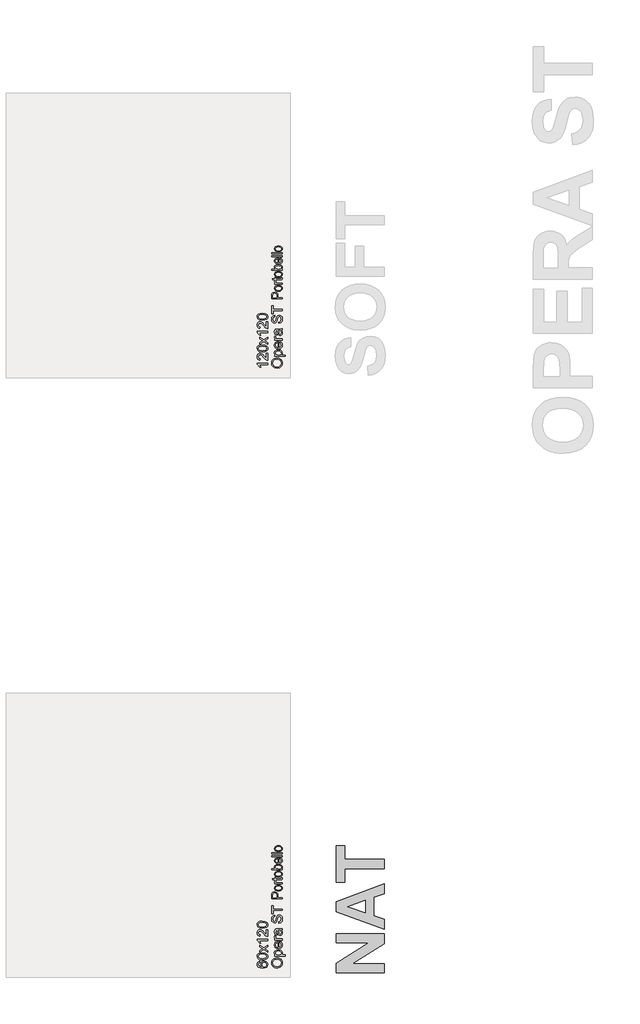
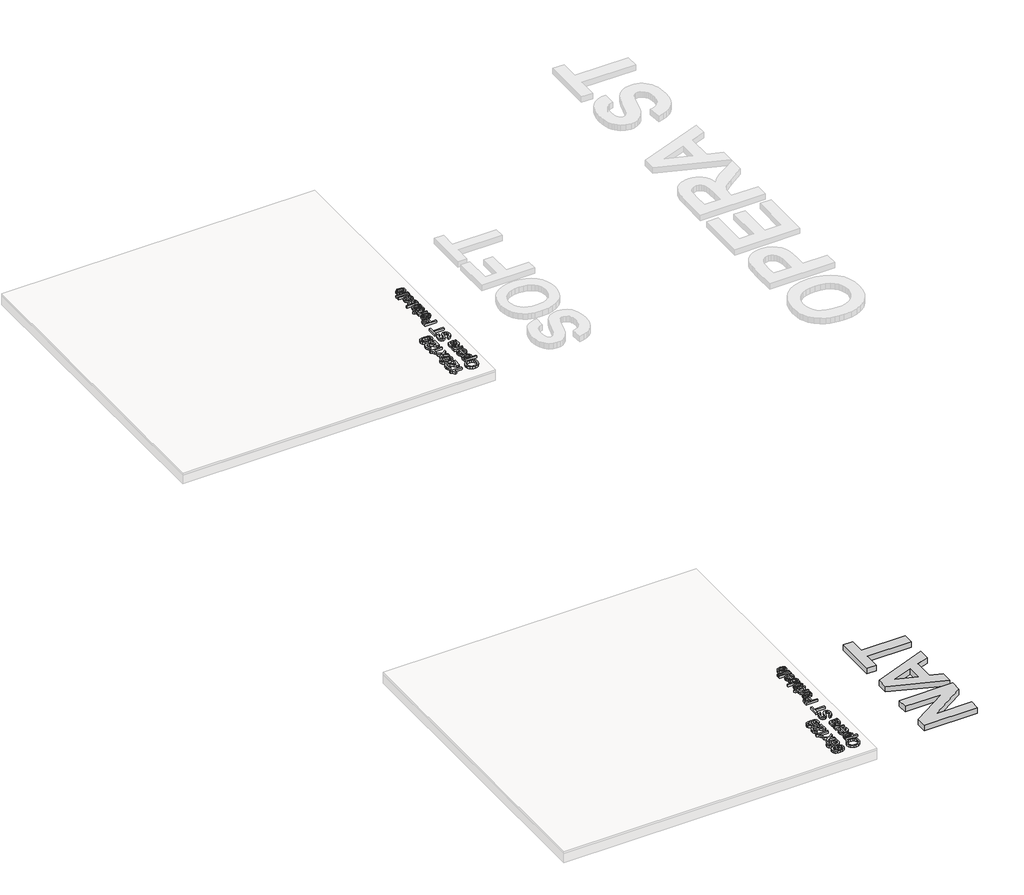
# One storey, part 3 of 6: 7 proxies.
"""IFC4 building model written with IfcOpenShell, lengths in millimetres."""

from ifc_helpers import new_model, si_unit, frame, origin, origin_with_axes, place, context, project, spatial, polyline, outline, extrude, element, save

model = new_model("IFC4")

# Units and contexts
model_context = context("Model", 3, world=origin())
ifc_project = project(units=[si_unit("LENGTHUNIT", "METRE", prefix="MILLI")], contexts=[model_context])

# Site, building, storey
site = spatial("IfcSite", under=ifc_project)
building = spatial("IfcBuilding", under=site)
storey = spatial("IfcBuildingStorey", under=building, Name="PORTOBELLO - SHOWROOM", Elevation=0.0)

# Proxies
placement = place(None, origin())
element("IfcBuildingElementProxy", 1, Name="10mm Arial", ObjectType="10mm Arial", at=placement, inside=storey, context=model_context, shape_type="SweptSolid", body=[
    extrude(outline(polyline([(-5289.4412704, -7634.8392093), (-5311.6552115, -7631.4914831), (-5328.4612873, -7621.4483047), (-5339.0378947, -7606.1137568), (-5342.5634305, -7586.8919226), (-5340.9079615, -7573.7156158), (-5335.9415545, -7561.9004724), (-5328.0136976, -7552.0902858), (-5317.4738784, -7544.9288497), (-5304.8310005, -7540.5510539), (-5290.5939673, -7539.0917887), (-5276.1668617, -7540.627696), (-5263.3461742, -7545.235418), (-5252.7879609, -7552.6605029), (-5245.1482781, -7562.6484991), (-5240.512965, -7574.362475), (-5238.9678606, -7586.965499), (-5240.6754462, -7600.3441409), (-5245.798203, -7612.2267293), (-5253.8732128, -7622.0123904), (-5264.4375574, -7629.1002502), (-5289.4412704, -7634.8392093)]), holes=[polyline([(-5289.318643, -7622.2821705), (-5273.6039505, -7619.7713759), (-5261.6293915, -7612.238992), (-5254.0510224, -7600.9174236), (-5251.5248994, -7587.0390754), (-5254.0755479, -7572.958392), (-5261.7274934, -7561.6184295), (-5274.0699343, -7554.141228), (-5290.6920691, -7551.6488274), (-5311.4160882, -7555.9162586), (-5325.1380866, -7568.3874582), (-5330.0063917, -7586.8183462), (-5327.661144, -7600.3257468), (-5320.6254008, -7611.8097964), (-5308.1082159, -7619.664077), (-5289.318643, -7622.2821705)])]), frame((0.0, 0.0, 19.0), z_axis=(0.0, 0.0, 1.0), x_axis=(1.0, 0.0, 0.0)), (0.0, 0.0, 1.0), 20.0),
    extrude(outline(polyline([(-5212.2841532, -7523.3954902), (-5314.3100932, -7523.3954902), (-5314.3100932, -7510.8384514), (-5301.9983091, -7510.8384514), (-5312.4093696, -7502.1564364), (-5315.8797231, -7490.4332634), (-5311.0236807, -7474.5162358), (-5297.3384705, -7464.1174381), (-5277.9878776, -7460.6102964), (-5257.6440032, -7464.5711592), (-5243.7871148, -7476.0736029), (-5238.9678606, -7491.9538424), (-5242.1929594, -7502.8799376), (-5250.347677, -7510.8384514), (-5212.2841532, -7510.8384514), (-5212.2841532, -7523.3954902)]), holes=[polyline([(-5276.8351807, -7510.8384514), (-5265.5779916, -7509.4803537), (-5257.7053169, -7505.4060606), (-5253.0700038, -7499.3942557), (-5251.5248994, -7492.2236225), (-5253.1251861, -7484.9364933), (-5257.9260461, -7478.7714042), (-5266.086895, -7474.5683524), (-5277.7671484, -7473.1673351), (-5288.9630238, -7474.5346299), (-5296.9460631, -7478.6365141), (-5301.728529, -7484.639122), (-5303.3226843, -7491.7085877), (-5301.6273614, -7498.8056445), (-5296.5413929, -7505.0381786), (-5288.2241941, -7509.3883832), (-5276.8351807, -7510.8384514)])]), frame((0.0, 0.0, 19.0), z_axis=(0.0, 0.0, 1.0), x_axis=(1.0, 0.0, 0.0)), (0.0, 0.0, 1.0), 20.0),
    extrude(outline(polyline([(-5262.5123083, -7394.8329956), (-5260.9426785, -7382.5212115), (-5251.6659208, -7386.9572552), (-5244.7313452, -7394.035918), (-5240.4087318, -7403.5977842), (-5238.9678606, -7415.4834383), (-5241.4541298, -7430.2171122), (-5248.9129372, -7441.554009), (-5260.859905, -7448.7828902), (-5276.8106552, -7451.1925173), (-5293.2978999, -7448.7583648), (-5305.6280781, -7441.4559071), (-5313.3168118, -7430.2722945), (-5315.8797231, -7416.1946768), (-5313.3229432, -7402.5554518), (-5305.6526036, -7391.6569477), (-5293.3469509, -7384.51084), (-5276.8842316, -7382.1288041), (-5273.4997172, -7382.2023805), (-5273.4997172, -7438.6354785), (-5264.1003323, -7436.4619091), (-5257.1902821, -7431.4127287), (-5252.9412451, -7424.1255995), (-5251.5248994, -7415.2381836), (-5254.1491243, -7402.9263995), (-5262.5123083, -7394.8329956)]), holes=[polyline([(-5286.056756, -7438.6354785), (-5286.056756, -7394.6858428), (-5297.4365724, -7399.7135634), (-5301.8511563, -7407.0344151), (-5303.3226843, -7416.2437277), (-5298.6260575, -7431.7070343), (-5293.1354187, -7436.5722737), (-5286.056756, -7438.6354785)])]), frame((0.0, 0.0, 19.0), z_axis=(0.0, 0.0, 1.0), x_axis=(1.0, 0.0, 0.0)), (0.0, 0.0, 1.0), 20.0),
    extrude(outline(polyline([(-5240.5374905, -7369.5717653), (-5314.3100932, -7369.5717653), (-5314.3100932, -7358.5843564), (-5303.3962607, -7358.5843564), (-5313.4517019, -7350.7852581), (-5315.8797231, -7342.9371088), (-5312.0046994, -7330.3310191), (-5300.7475103, -7334.5248739), (-5303.3226843, -7343.3540418), (-5300.8456122, -7350.4541643), (-5293.9784816, -7354.9791128), (-5279.3122528, -7357.0147265), (-5240.5374905, -7357.0147265), (-5240.5374905, -7369.5717653)])), frame((0.0, 0.0, 19.0), z_axis=(0.0, 0.0, 1.0), x_axis=(1.0, 0.0, 0.0)), (0.0, 0.0, 1.0), 20.0),
    extrude(outline(polyline([(-5249.9552695, -7275.3939745), (-5241.4449327, -7287.5708686), (-5238.9678606, -7301.0230869), (-5240.4577827, -7311.5169208), (-5244.9275489, -7319.2577711), (-5251.7149718, -7324.03104), (-5260.1578635, -7325.6221296), (-5270.0906774, -7323.2186339), (-5277.3011645, -7316.9033263), (-5281.4214429, -7308.1109466), (-5283.3099038, -7297.246165), (-5287.6263858, -7275.4675509), (-5290.422289, -7275.3939745), (-5299.6929153, -7278.8520653), (-5303.3226843, -7292.7334792), (-5300.9069259, -7305.4376708), (-5292.3352754, -7311.495461), (-5293.9049052, -7324.0524998), (-5306.1676384, -7318.620109), (-5313.3536, -7307.681751), (-5315.8797231, -7291.1147985), (-5313.6479056, -7275.8967466), (-5308.0438366, -7267.3005706), (-5299.521237, -7263.4500724), (-5288.5338281, -7262.8369358), (-5272.911106, -7262.8369358), (-5251.0957037, -7262.1992736), (-5240.5374905, -7259.6976761), (-5240.5374905, -7272.2547148), (-5249.9552695, -7275.3939745)]), holes=[polyline([(-5275.0693471, -7275.3939745), (-5271.2188489, -7295.6520097), (-5269.1832352, -7306.4554777), (-5265.8722972, -7311.3483082), (-5261.0407803, -7313.0650908), (-5254.2472262, -7309.3249572), (-5251.5248994, -7298.349811), (-5254.529269, -7285.6456195), (-5261.8010698, -7277.4541137), (-5271.5131545, -7275.4675509), (-5275.0693471, -7275.3939745)])]), frame((0.0, 0.0, 19.0), z_axis=(0.0, 0.0, 1.0), x_axis=(1.0, 0.0, 0.0)), (0.0, 0.0, 1.0), 20.0),
    extrude(outline(polyline([(-5275.0693471, -7209.469521), (-5275.0693471, -7196.9124822), (-5262.5000456, -7192.8657803), (-5254.5537945, -7182.9820173), (-5251.5248994, -7167.923381), (-5253.8180305, -7154.8022565), (-5260.1210753, -7146.3287079), (-5268.545573, -7143.5450675), (-5276.3814595, -7145.6297321), (-5282.0836305, -7154.1645944), (-5286.8783591, -7172.4483295), (-5293.0710394, -7192.1300163), (-5302.4152421, -7202.8108569), (-5314.8987044, -7206.3302613), (-5329.1112122, -7201.976991), (-5339.1421279, -7189.2605367), (-5342.5634305, -7170.6457078), (-5338.9827124, -7150.78008), (-5328.4612873, -7137.5363282), (-5312.7404634, -7132.5576585), (-5312.7404634, -7145.1146973), (-5320.2329934, -7147.4200911), (-5325.6408587, -7152.2270825), (-5330.0063917, -7170.1551984), (-5325.6899096, -7188.1323653), (-5315.2665864, -7193.7732225), (-5306.5600459, -7189.7755715), (-5299.5457625, -7169.2722817), (-5293.2427176, -7147.0522091), (-5283.0646491, -7134.8998406), (-5268.8644041, -7130.9880287), (-5253.842556, -7135.4884518), (-5242.8796725, -7148.437898), (-5238.9678606, -7167.4328717), (-5243.1862408, -7189.8614106), (-5255.8904324, -7204.0493929), (-5275.0693471, -7209.469521)])), frame((0.0, 0.0, 19.0), z_axis=(0.0, 0.0, 1.0), x_axis=(1.0, 0.0, 0.0)), (0.0, 0.0, 1.0), 20.0),
    extrude(outline(polyline([(-5240.5374905, -7087.038393), (-5328.4367618, -7087.038393), (-5328.4367618, -7120.0006198), (-5340.9938006, -7120.0006198), (-5340.9938006, -7041.5191275), (-5328.4367618, -7041.5191275), (-5328.4367618, -7074.4813542), (-5240.5374905, -7074.4813542), (-5240.5374905, -7087.038393)])), frame((0.0, 0.0, 19.0), z_axis=(0.0, 0.0, 1.0), x_axis=(1.0, 0.0, 0.0)), (0.0, 0.0, 1.0), 20.0),
])
element("IfcBuildingElementProxy", 2, Name="10mm Arial", ObjectType="10mm Arial", at=placement, inside=storey, context=model_context, shape_type="SweptSolid", body=[
    extrude(outline(polyline([(-5289.4412704, -1934.8392093), (-5311.6552115, -1931.4914831), (-5328.4612873, -1921.4483047), (-5339.0378947, -1906.1137568), (-5342.5634305, -1886.8919226), (-5340.9079615, -1873.7156158), (-5335.9415545, -1861.9004724), (-5328.0136976, -1852.0902858), (-5317.4738784, -1844.9288497), (-5304.8310005, -1840.5510539), (-5290.5939673, -1839.0917887), (-5276.1668617, -1840.627696), (-5263.3461742, -1845.235418), (-5252.7879609, -1852.6605029), (-5245.1482781, -1862.6484991), (-5240.512965, -1874.362475), (-5238.9678606, -1886.965499), (-5240.6754462, -1900.3441409), (-5245.798203, -1912.2267293), (-5253.8732128, -1922.0123904), (-5264.4375574, -1929.1002502), (-5289.4412704, -1934.8392093)]), holes=[polyline([(-5289.318643, -1922.2821705), (-5273.6039505, -1919.7713759), (-5261.6293915, -1912.238992), (-5254.0510224, -1900.9174236), (-5251.5248994, -1887.0390754), (-5254.0755479, -1872.958392), (-5261.7274934, -1861.6184295), (-5274.0699343, -1854.141228), (-5290.6920691, -1851.6488274), (-5311.4160882, -1855.9162586), (-5325.1380866, -1868.3874582), (-5330.0063917, -1886.8183462), (-5327.661144, -1900.3257468), (-5320.6254008, -1911.8097964), (-5308.1082159, -1919.664077), (-5289.318643, -1922.2821705)])]), frame((0.0, 0.0, 17.0), z_axis=(0.0, 0.0, 1.0), x_axis=(1.0, 0.0, 0.0)), (0.0, 0.0, 1.0), 20.0),
    extrude(outline(polyline([(-5212.2841532, -1823.3954902), (-5314.3100932, -1823.3954902), (-5314.3100932, -1810.8384514), (-5301.9983091, -1810.8384514), (-5312.4093696, -1802.1564364), (-5315.8797231, -1790.4332634), (-5311.0236807, -1774.5162358), (-5297.3384705, -1764.1174381), (-5277.9878776, -1760.6102964), (-5257.6440032, -1764.5711592), (-5243.7871148, -1776.0736029), (-5238.9678606, -1791.9538424), (-5242.1929594, -1802.8799376), (-5250.347677, -1810.8384514), (-5212.2841532, -1810.8384514), (-5212.2841532, -1823.3954902)]), holes=[polyline([(-5276.8351807, -1810.8384514), (-5265.5779916, -1809.4803537), (-5257.7053169, -1805.4060606), (-5253.0700038, -1799.3942557), (-5251.5248994, -1792.2236225), (-5253.1251861, -1784.9364933), (-5257.9260461, -1778.7714042), (-5266.086895, -1774.5683524), (-5277.7671484, -1773.1673351), (-5288.9630238, -1774.5346299), (-5296.9460631, -1778.6365141), (-5301.728529, -1784.639122), (-5303.3226843, -1791.7085877), (-5301.6273614, -1798.8056445), (-5296.5413929, -1805.0381786), (-5288.2241941, -1809.3883832), (-5276.8351807, -1810.8384514)])]), frame((0.0, 0.0, 17.0), z_axis=(0.0, 0.0, 1.0), x_axis=(1.0, 0.0, 0.0)), (0.0, 0.0, 1.0), 20.0),
    extrude(outline(polyline([(-5262.5123083, -1694.8329956), (-5260.9426785, -1682.5212115), (-5251.6659208, -1686.9572552), (-5244.7313452, -1694.035918), (-5240.4087318, -1703.5977842), (-5238.9678606, -1715.4834383), (-5241.4541298, -1730.2171122), (-5248.9129372, -1741.554009), (-5260.859905, -1748.7828902), (-5276.8106552, -1751.1925173), (-5293.2978999, -1748.7583648), (-5305.6280781, -1741.4559071), (-5313.3168118, -1730.2722945), (-5315.8797231, -1716.1946768), (-5313.3229432, -1702.5554518), (-5305.6526036, -1691.6569477), (-5293.3469509, -1684.51084), (-5276.8842316, -1682.1288041), (-5273.4997172, -1682.2023805), (-5273.4997172, -1738.6354785), (-5264.1003323, -1736.4619091), (-5257.1902821, -1731.4127287), (-5252.9412451, -1724.1255995), (-5251.5248994, -1715.2381836), (-5254.1491243, -1702.9263995), (-5262.5123083, -1694.8329956)]), holes=[polyline([(-5286.056756, -1738.6354785), (-5286.056756, -1694.6858428), (-5297.4365724, -1699.7135634), (-5301.8511563, -1707.0344151), (-5303.3226843, -1716.2437277), (-5298.6260575, -1731.7070343), (-5293.1354187, -1736.5722737), (-5286.056756, -1738.6354785)])]), frame((0.0, 0.0, 17.0), z_axis=(0.0, 0.0, 1.0), x_axis=(1.0, 0.0, 0.0)), (0.0, 0.0, 1.0), 20.0),
    extrude(outline(polyline([(-5240.5374905, -1669.5717653), (-5314.3100932, -1669.5717653), (-5314.3100932, -1658.5843564), (-5303.3962607, -1658.5843564), (-5313.4517019, -1650.7852581), (-5315.8797231, -1642.9371088), (-5312.0046994, -1630.3310191), (-5300.7475103, -1634.5248739), (-5303.3226843, -1643.3540418), (-5300.8456122, -1650.4541643), (-5293.9784816, -1654.9791128), (-5279.3122528, -1657.0147265), (-5240.5374905, -1657.0147265), (-5240.5374905, -1669.5717653)])), frame((0.0, 0.0, 17.0), z_axis=(0.0, 0.0, 1.0), x_axis=(1.0, 0.0, 0.0)), (0.0, 0.0, 1.0), 20.0),
    extrude(outline(polyline([(-5249.9552695, -1575.3939745), (-5241.4449327, -1587.5708686), (-5238.9678606, -1601.0230869), (-5240.4577827, -1611.5169208), (-5244.9275489, -1619.2577711), (-5251.7149718, -1624.03104), (-5260.1578635, -1625.6221296), (-5270.0906774, -1623.2186339), (-5277.3011645, -1616.9033263), (-5281.4214429, -1608.1109466), (-5283.3099038, -1597.246165), (-5287.6263858, -1575.4675509), (-5290.422289, -1575.3939745), (-5299.6929153, -1578.8520653), (-5303.3226843, -1592.7334792), (-5300.9069259, -1605.4376708), (-5292.3352754, -1611.495461), (-5293.9049052, -1624.0524998), (-5306.1676384, -1618.620109), (-5313.3536, -1607.681751), (-5315.8797231, -1591.1147985), (-5313.6479056, -1575.8967466), (-5308.0438366, -1567.3005706), (-5299.521237, -1563.4500724), (-5288.5338281, -1562.8369358), (-5272.911106, -1562.8369358), (-5251.0957037, -1562.1992736), (-5240.5374905, -1559.6976761), (-5240.5374905, -1572.2547148), (-5249.9552695, -1575.3939745)]), holes=[polyline([(-5275.0693471, -1575.3939745), (-5271.2188489, -1595.6520097), (-5269.1832352, -1606.4554777), (-5265.8722972, -1611.3483082), (-5261.0407803, -1613.0650908), (-5254.2472262, -1609.3249572), (-5251.5248994, -1598.349811), (-5254.529269, -1585.6456195), (-5261.8010698, -1577.4541137), (-5271.5131545, -1575.4675509), (-5275.0693471, -1575.3939745)])]), frame((0.0, 0.0, 17.0), z_axis=(0.0, 0.0, 1.0), x_axis=(1.0, 0.0, 0.0)), (0.0, 0.0, 1.0), 20.0),
    extrude(outline(polyline([(-5275.0693471, -1509.469521), (-5275.0693471, -1496.9124822), (-5262.5000456, -1492.8657803), (-5254.5537945, -1482.9820173), (-5251.5248994, -1467.923381), (-5253.8180305, -1454.8022565), (-5260.1210753, -1446.3287079), (-5268.545573, -1443.5450675), (-5276.3814595, -1445.6297321), (-5282.0836305, -1454.1645944), (-5286.8783591, -1472.4483295), (-5293.0710394, -1492.1300163), (-5302.4152421, -1502.8108569), (-5314.8987044, -1506.3302613), (-5329.1112122, -1501.976991), (-5339.1421279, -1489.2605367), (-5342.5634305, -1470.6457078), (-5338.9827124, -1450.78008), (-5328.4612873, -1437.5363282), (-5312.7404634, -1432.5576585), (-5312.7404634, -1445.1146973), (-5320.2329934, -1447.4200911), (-5325.6408587, -1452.2270825), (-5330.0063917, -1470.1551984), (-5325.6899096, -1488.1323653), (-5315.2665864, -1493.7732225), (-5306.5600459, -1489.7755715), (-5299.5457625, -1469.2722817), (-5293.2427176, -1447.0522091), (-5283.0646491, -1434.8998406), (-5268.8644041, -1430.9880287), (-5253.842556, -1435.4884518), (-5242.8796725, -1448.437898), (-5238.9678606, -1467.4328717), (-5243.1862408, -1489.8614106), (-5255.8904324, -1504.0493929), (-5275.0693471, -1509.469521)])), frame((0.0, 0.0, 17.0), z_axis=(0.0, 0.0, 1.0), x_axis=(1.0, 0.0, 0.0)), (0.0, 0.0, 1.0), 20.0),
    extrude(outline(polyline([(-5240.5374905, -1387.038393), (-5328.4367618, -1387.038393), (-5328.4367618, -1420.0006198), (-5340.9938006, -1420.0006198), (-5340.9938006, -1341.5191275), (-5328.4367618, -1341.5191275), (-5328.4367618, -1374.4813542), (-5240.5374905, -1374.4813542), (-5240.5374905, -1387.038393)])), frame((0.0, 0.0, 17.0), z_axis=(0.0, 0.0, 1.0), x_axis=(1.0, 0.0, 0.0)), (0.0, 0.0, 1.0), 20.0),
])
element("IfcBuildingElementProxy", 3, Name="10mm Arial", ObjectType="10mm Arial", at=placement, inside=storey, context=model_context, shape_type="SweptSolid", body=[
    extrude(outline(polyline([(-5454.3100932, -7570.4843856), (-5452.7404634, -7583.0414244), (-5463.2128375, -7587.7993648), (-5468.4367618, -7600.3809291), (-5465.395604, -7611.7116945), (-5453.9789994, -7620.283345), (-5431.5995114, -7623.8518004), (-5441.6181644, -7612.7785523), (-5444.8923142, -7599.0565539), (-5442.6543654, -7587.4560083), (-5435.9405189, -7577.7193982), (-5425.6827426, -7571.1159163), (-5412.8130042, -7568.9147557), (-5395.4857622, -7573.0595596), (-5383.223029, -7584.4639014), (-5378.9678606, -7600.9204893), (-5381.7882893, -7615.1667196), (-5390.2495751, -7626.5128135), (-5405.1855841, -7633.9348327), (-5427.4301821, -7636.4088391), (-5452.4400264, -7633.6619869), (-5469.5404078, -7625.4214302), (-5478.1304524, -7614.1703725), (-5480.9938006, -7599.5961141), (-5479.2218357, -7588.5780484), (-5473.9059408, -7579.7550119), (-5465.4630491, -7573.5745943), (-5454.3100932, -7570.4843856)]), holes=[polyline([(-5413.0092079, -7623.8518004), (-5402.1321636, -7620.9455326), (-5394.2349634, -7613.2200107), (-5391.5248994, -7601.901508), (-5392.9289823, -7593.614966), (-5397.1412312, -7587.100389), (-5403.7631071, -7582.8789431), (-5412.3960712, -7581.4717945), (-5420.6826132, -7582.860549), (-5427.0009865, -7587.0268126), (-5431.0017032, -7593.6517542), (-5432.3352754, -7602.4165428), (-5427.0009865, -7617.6100692), (-5420.8358974, -7622.2913676), (-5413.0092079, -7623.8518004)])]), frame((0.0, 0.0, 19.0), z_axis=(0.0, 0.0, 1.0), x_axis=(1.0, 0.0, 0.0)), (0.0, 0.0, 1.0), 20.0),
    extrude(outline(polyline([(-5429.9563052, -7557.9273468), (-5458.8595672, -7554.2362641), (-5475.5246216, -7543.2733807), (-5480.9938006, -7524.9651201), (-5477.7564391, -7510.2988912), (-5468.4244991, -7500.1698736), (-5453.5620665, -7494.2837617), (-5429.9563052, -7492.0028933), (-5401.1756704, -7495.6571878), (-5384.4738278, -7506.583283), (-5380.3443524, -7514.8146427), (-5378.9678606, -7524.9651201), (-5381.3590936, -7538.0126681), (-5388.5327925, -7547.9209566), (-5405.5228093, -7555.4257493), (-5429.9563052, -7557.9273468)]), holes=[polyline([(-5429.9808306, -7545.3703081), (-5410.2286332, -7543.8987801), (-5398.7967002, -7539.4841961), (-5393.3428496, -7532.9113711), (-5391.5248994, -7524.9651201), (-5393.3489809, -7517.018869), (-5398.8212256, -7510.446044), (-5410.25929, -7506.03146), (-5429.9808306, -7504.5599321), (-5449.288504, -7505.9824091), (-5460.8093418, -7510.2498402), (-5466.5299068, -7516.8104025), (-5468.4367618, -7525.1122729), (-5466.7567674, -7532.9726848), (-5461.7167841, -7539.2879924), (-5449.4785764, -7543.8497291), (-5429.9808306, -7545.3703081)])]), frame((0.0, 0.0, 19.0), z_axis=(0.0, 0.0, 1.0), x_axis=(1.0, 0.0, 0.0)), (0.0, 0.0, 1.0), 20.0),
    extrude(outline(polyline([(-5380.5374905, -7485.7243739), (-5417.644521, -7458.8935137), (-5454.3100932, -7484.1547441), (-5454.3100932, -7469.0961077), (-5436.627232, -7456.9069509), (-5428.3130989, -7451.1925173), (-5435.1311786, -7446.2383731), (-5454.3100932, -7432.3569591), (-5454.3100932, -7417.2492719), (-5417.6199956, -7443.7858265), (-5380.5374905, -7418.2302905), (-5380.5374905, -7433.3134523), (-5402.8556648, -7448.7154452), (-5406.9514177, -7451.5113484), (-5380.5374905, -7470.6166866), (-5380.5374905, -7485.7243739)])), frame((0.0, 0.0, 19.0), z_axis=(0.0, 0.0, 1.0), x_axis=(1.0, 0.0, 0.0)), (0.0, 0.0, 1.0), 20.0),
    extrude(outline(polyline([(-5380.5374905, -7363.2932459), (-5380.5374905, -7375.8502847), (-5458.822779, -7375.8502847), (-5450.3492304, -7387.7451359), (-5444.0093974, -7400.9643622), (-5455.8797231, -7400.9643622), (-5467.6274215, -7382.5579997), (-5480.9938006, -7371.3866498), (-5480.9938006, -7363.2932459), (-5380.5374905, -7363.2932459)])), frame((0.0, 0.0, 19.0), z_axis=(0.0, 0.0, 1.0), x_axis=(1.0, 0.0, 0.0)), (0.0, 0.0, 1.0), 20.0),
    extrude(outline(polyline([(-5393.0945292, -7269.1154551), (-5380.5374905, -7269.1154551), (-5380.5374905, -7335.0399087), (-5389.1949801, -7333.691008), (-5402.524571, -7326.0513253), (-5417.0804353, -7310.3182386), (-5438.0006581, -7288.6499891), (-5452.2254286, -7283.2421238), (-5463.740135, -7288.3556835), (-5468.4367618, -7301.7097999), (-5463.8504996, -7315.6280021), (-5451.1708335, -7320.9132401), (-5452.7404634, -7333.4702788), (-5464.8867006, -7330.4260553), (-5473.758788, -7323.8440333), (-5479.1850475, -7314.0675693), (-5480.9938006, -7301.4400198), (-5478.9827124, -7288.7204998), (-5472.9494477, -7278.9624299), (-5463.9363388, -7272.7544212), (-5452.9857181, -7270.685085), (-5441.0786041, -7272.9169024), (-5428.76682, -7280.335856), (-5411.5622054, -7298.3252856), (-5399.4834132, -7312.7707852), (-5393.0945292, -7318.436168), (-5393.0945292, -7269.1154551)])), frame((0.0, 0.0, 19.0), z_axis=(0.0, 0.0, 1.0), x_axis=(1.0, 0.0, 0.0)), (0.0, 0.0, 1.0), 20.0),
    extrude(outline(polyline([(-5429.9563052, -7256.5584164), (-5458.8595672, -7252.8673337), (-5475.5246216, -7241.9044502), (-5480.9938006, -7223.5961896), (-5477.7564391, -7208.9299607), (-5468.4244991, -7198.8009431), (-5453.5620665, -7192.9148312), (-5429.9563052, -7190.6339628), (-5401.1756704, -7194.2882573), (-5384.4738278, -7205.2143526), (-5380.3443524, -7213.4457122), (-5378.9678606, -7223.5961896), (-5381.3590936, -7236.6437377), (-5388.5327925, -7246.5520261), (-5405.5228093, -7254.0568188), (-5429.9563052, -7256.5584164)]), holes=[polyline([(-5429.9808306, -7244.0013776), (-5410.2286332, -7242.5298496), (-5398.7967002, -7238.1152657), (-5393.3428496, -7231.5424407), (-5391.5248994, -7223.5961896), (-5393.3489809, -7215.6499385), (-5398.8212256, -7209.0771135), (-5410.25929, -7204.6625296), (-5429.9808306, -7203.1910016), (-5449.288504, -7204.6134787), (-5460.8093418, -7208.8809098), (-5466.5299068, -7215.441472), (-5468.4367618, -7223.7433424), (-5466.7567674, -7231.6037544), (-5461.7167841, -7237.919062), (-5449.4785764, -7242.4807987), (-5429.9808306, -7244.0013776)])]), frame((0.0, 0.0, 19.0), z_axis=(0.0, 0.0, 1.0), x_axis=(1.0, 0.0, 0.0)), (0.0, 0.0, 1.0), 20.0),
])
element("IfcBuildingElementProxy", 4, Name="10mm Arial", ObjectType="10mm Arial", at=placement, inside=storey, context=model_context, shape_type="SweptSolid", body=[
    extrude(outline(polyline([(-5380.5374905, -1887.7503139), (-5380.5374905, -1900.3073527), (-5458.822779, -1900.3073527), (-5450.3492304, -1912.2022038), (-5444.0093974, -1925.4214302), (-5455.8797231, -1925.4214302), (-5467.6274215, -1907.0150677), (-5480.9938006, -1895.8437178), (-5480.9938006, -1887.7503139), (-5380.5374905, -1887.7503139)])), frame((0.0, 0.0, 17.0), z_axis=(0.0, 0.0, 1.0), x_axis=(1.0, 0.0, 0.0)), (0.0, 0.0, 1.0), 20.0),
    extrude(outline(polyline([(-5393.0945292, -1793.5725231), (-5380.5374905, -1793.5725231), (-5380.5374905, -1859.4969767), (-5389.1949801, -1858.148076), (-5402.524571, -1850.5083933), (-5417.0804353, -1834.7753066), (-5438.0006581, -1813.1070571), (-5452.2254286, -1807.6991917), (-5463.740135, -1812.8127515), (-5468.4367618, -1826.1668679), (-5463.8504996, -1840.0850701), (-5451.1708335, -1845.3703081), (-5452.7404634, -1857.9273468), (-5464.8867006, -1854.8831233), (-5473.758788, -1848.3011013), (-5479.1850475, -1838.5246373), (-5480.9938006, -1825.8970878), (-5478.9827124, -1813.1775678), (-5472.9494477, -1803.4194979), (-5463.9363388, -1797.2114892), (-5452.9857181, -1795.142153), (-5441.0786041, -1797.3739704), (-5428.76682, -1804.792924), (-5411.5622054, -1822.7823535), (-5399.4834132, -1837.2278532), (-5393.0945292, -1842.893236), (-5393.0945292, -1793.5725231)])), frame((0.0, 0.0, 17.0), z_axis=(0.0, 0.0, 1.0), x_axis=(1.0, 0.0, 0.0)), (0.0, 0.0, 1.0), 20.0),
    extrude(outline(polyline([(-5429.9563052, -1781.0154844), (-5458.8595672, -1777.3244017), (-5475.5246216, -1766.3615182), (-5480.9938006, -1748.0532576), (-5477.7564391, -1733.3870287), (-5468.4244991, -1723.2580111), (-5453.5620665, -1717.3718992), (-5429.9563052, -1715.0910308), (-5401.1756704, -1718.7453253), (-5384.4738278, -1729.6714206), (-5380.3443524, -1737.9027802), (-5378.9678606, -1748.0532576), (-5381.3590936, -1761.1008057), (-5388.5327925, -1771.0090941), (-5405.5228093, -1778.5138868), (-5429.9563052, -1781.0154844)]), holes=[polyline([(-5429.9808306, -1768.4584456), (-5410.2286332, -1766.9869176), (-5398.7967002, -1762.5723337), (-5393.3428496, -1755.9995087), (-5391.5248994, -1748.0532576), (-5393.3489809, -1740.1070065), (-5398.8212256, -1733.5341815), (-5410.25929, -1729.1195976), (-5429.9808306, -1727.6480696), (-5449.288504, -1729.0705466), (-5460.8093418, -1733.3379778), (-5466.5299068, -1739.89854), (-5468.4367618, -1748.2004104), (-5466.7567674, -1756.0608224), (-5461.7167841, -1762.3761299), (-5449.4785764, -1766.9378667), (-5429.9808306, -1768.4584456)])]), frame((0.0, 0.0, 17.0), z_axis=(0.0, 0.0, 1.0), x_axis=(1.0, 0.0, 0.0)), (0.0, 0.0, 1.0), 20.0),
    extrude(outline(polyline([(-5380.5374905, -1708.8125114), (-5417.644521, -1681.9816513), (-5454.3100932, -1707.2428816), (-5454.3100932, -1692.1842453), (-5436.627232, -1679.9950885), (-5428.3130989, -1674.2806548), (-5435.1311786, -1669.3265106), (-5454.3100932, -1655.4450967), (-5454.3100932, -1640.3374094), (-5417.6199956, -1666.873964), (-5380.5374905, -1641.3184281), (-5380.5374905, -1656.4015899), (-5402.8556648, -1671.8035827), (-5406.9514177, -1674.5994859), (-5380.5374905, -1693.7048242), (-5380.5374905, -1708.8125114)])), frame((0.0, 0.0, 17.0), z_axis=(0.0, 0.0, 1.0), x_axis=(1.0, 0.0, 0.0)), (0.0, 0.0, 1.0), 20.0),
    extrude(outline(polyline([(-5380.5374905, -1586.3813834), (-5380.5374905, -1598.9384222), (-5458.822779, -1598.9384222), (-5450.3492304, -1610.8332734), (-5444.0093974, -1624.0524998), (-5455.8797231, -1624.0524998), (-5467.6274215, -1605.6461373), (-5480.9938006, -1594.4747873), (-5480.9938006, -1586.3813834), (-5380.5374905, -1586.3813834)])), frame((0.0, 0.0, 17.0), z_axis=(0.0, 0.0, 1.0), x_axis=(1.0, 0.0, 0.0)), (0.0, 0.0, 1.0), 20.0),
    extrude(outline(polyline([(-5393.0945292, -1492.2035927), (-5380.5374905, -1492.2035927), (-5380.5374905, -1558.1280462), (-5389.1949801, -1556.7791456), (-5402.524571, -1549.1394628), (-5417.0804353, -1533.4063761), (-5438.0006581, -1511.7381266), (-5452.2254286, -1506.3302613), (-5463.740135, -1511.443821), (-5468.4367618, -1524.7979375), (-5463.8504996, -1538.7161396), (-5451.1708335, -1544.0013776), (-5452.7404634, -1556.5584164), (-5464.8867006, -1553.5141929), (-5473.758788, -1546.9321708), (-5479.1850475, -1537.1557068), (-5480.9938006, -1524.5281573), (-5478.9827124, -1511.8086373), (-5472.9494477, -1502.0505674), (-5463.9363388, -1495.8425588), (-5452.9857181, -1493.7732225), (-5441.0786041, -1496.00504), (-5428.76682, -1503.4239935), (-5411.5622054, -1521.4134231), (-5399.4834132, -1535.8589228), (-5393.0945292, -1541.5243055), (-5393.0945292, -1492.2035927)])), frame((0.0, 0.0, 17.0), z_axis=(0.0, 0.0, 1.0), x_axis=(1.0, 0.0, 0.0)), (0.0, 0.0, 1.0), 20.0),
    extrude(outline(polyline([(-5429.9563052, -1479.6465539), (-5458.8595672, -1475.9554712), (-5475.5246216, -1464.9925878), (-5480.9938006, -1446.6843271), (-5477.7564391, -1432.0180983), (-5468.4244991, -1421.8890807), (-5453.5620665, -1416.0029687), (-5429.9563052, -1413.7221004), (-5401.1756704, -1417.3763949), (-5384.4738278, -1428.3024901), (-5380.3443524, -1436.5338498), (-5378.9678606, -1446.6843271), (-5381.3590936, -1459.7318752), (-5388.5327925, -1469.6401636), (-5405.5228093, -1477.1449563), (-5429.9563052, -1479.6465539)]), holes=[polyline([(-5429.9808306, -1467.0895151), (-5410.2286332, -1465.6179872), (-5398.7967002, -1461.2034032), (-5393.3428496, -1454.6305782), (-5391.5248994, -1446.6843271), (-5393.3489809, -1438.7380761), (-5398.8212256, -1432.1652511), (-5410.25929, -1427.7506671), (-5429.9808306, -1426.2791391), (-5449.288504, -1427.7016162), (-5460.8093418, -1431.9690473), (-5466.5299068, -1438.5296096), (-5468.4367618, -1446.8314799), (-5466.7567674, -1454.6918919), (-5461.7167841, -1461.0071995), (-5449.4785764, -1465.5689362), (-5429.9808306, -1467.0895151)])]), frame((0.0, 0.0, 17.0), z_axis=(0.0, 0.0, 1.0), x_axis=(1.0, 0.0, 0.0)), (0.0, 0.0, 1.0), 20.0),
])
element("IfcBuildingElementProxy", 5, Name="10mm Arial Narrow", ObjectType="10mm Arial Narrow", at=placement, inside=storey, context=model_context, shape_type="SweptSolid", body=[
    extrude(outline(polyline([(-5240.5374905, -6975.411524), (-5341.2560942, -6975.411524), (-5341.2560942, -6944.1146393), (-5339.3777735, -6927.8189378), (-5329.8973303, -6916.3459517), (-5312.8782215, -6912.0562733), (-5300.802396, -6913.8425817), (-5291.1760022, -6919.2015069), (-5284.8747438, -6928.9452957), (-5282.7743243, -6943.8861949), (-5282.7743243, -6965.6645624), (-5240.5374905, -6965.6645624), (-5240.5374905, -6975.411524)]), holes=[polyline([(-5294.1457796, -6965.6645624), (-5294.1457796, -6942.6932074), (-5298.6765938, -6926.829012), (-5312.3451845, -6921.8032349), (-5322.5109609, -6924.2780494), (-5328.3109108, -6930.2556782), (-5329.884639, -6942.9216518), (-5329.884639, -6965.6645624), (-5294.1457796, -6965.6645624)])]), frame((0.0, 0.0, 19.0), z_axis=(0.0, 0.0, 1.0), x_axis=(1.0, 0.0, 0.0)), (0.0, 0.0, 1.0), 20.0),
    extrude(outline(polyline([(-5277.0885967, -6903.9338052), (-5293.6793722, -6901.9793363), (-5305.631457, -6896.1159297), (-5312.8560116, -6887.257363), (-5315.2641965, -6876.3174139), (-5312.8560116, -6865.5043783), (-5305.631457, -6856.6204289), (-5293.8697426, -6850.6808741), (-5277.850078, -6848.7010225), (-5260.6881915, -6850.6459729), (-5248.5457363, -6856.4808239), (-5241.3211817, -6865.3298721), (-5238.9129969, -6876.3174139), (-5241.3275274, -6887.178042), (-5248.571119, -6896.0524729), (-5260.5295495, -6901.9634722), (-5277.0885967, -6903.9338052)]), holes=[polyline([(-5277.1139794, -6894.1868436), (-5264.562228, -6892.8828067), (-5255.6909699, -6888.9706961), (-5250.4177114, -6883.1294994), (-5248.6599585, -6876.038204), (-5250.4335756, -6869.3181309), (-5255.7544267, -6863.6260576), (-5264.641549, -6859.7425025), (-5277.1139794, -6858.4479842), (-5289.6276567, -6859.752021), (-5298.4862234, -6863.6641316), (-5303.759482, -6869.5053284), (-5305.5172348, -6876.5966237), (-5303.7499635, -6883.3642895), (-5298.4481494, -6889.0468443), (-5289.5800641, -6892.9018437), (-5277.1139794, -6894.1868436)])]), frame((0.0, 0.0, 19.0), z_axis=(0.0, 0.0, 1.0), x_axis=(1.0, 0.0, 0.0)), (0.0, 0.0, 1.0), 20.0),
    extrude(outline(polyline([(-5248.6599585, -6777.2233037), (-5238.9129969, -6775.5988101), (-5238.9129969, -6782.9597968), (-5241.0324534, -6791.2345611), (-5246.8324032, -6795.5496223), (-5261.4782284, -6796.717227), (-5303.8927412, -6796.717227), (-5303.8927412, -6804.8396951), (-5307.1417284, -6804.8396951), (-5302.2682476, -6806.4641887), (-5303.8927412, -6814.0282371), (-5301.570223, -6820.1073967), (-5295.0849399, -6823.9782604), (-5279.6776334, -6825.958112), (-5240.5374905, -6825.958112), (-5240.5374905, -6835.7050736), (-5313.6397029, -6835.7050736), (-5313.6397029, -6825.958112), (-5303.9435066, -6825.958112), (-5313.0305178, -6819.7139647), (-5315.2641965, -6813.3175211), (-5313.6397029, -6804.8396951), (-5313.6397029, -6796.717227), (-5329.884639, -6796.717227), (-5338.007107, -6786.9702654), (-5313.6397029, -6786.9702654), (-5313.6397029, -6777.2233037), (-5303.8927412, -6777.2233037), (-5303.8927412, -6786.9702654), (-5259.2445497, -6786.9702654), (-5251.2489952, -6786.1072532), (-5248.6599585, -6781.4875994), (-5248.6599585, -6777.2233037)])), frame((0.0, 0.0, 19.0), z_axis=(0.0, 0.0, 1.0), x_axis=(1.0, 0.0, 0.0)), (0.0, 0.0, 1.0), 20.0),
    extrude(outline(polyline([(-5277.0885967, -6770.7253293), (-5293.6793722, -6768.7708604), (-5305.631457, -6762.9074538), (-5312.8560116, -6754.0488871), (-5315.2641965, -6743.1089379), (-5312.8560116, -6732.2959024), (-5305.631457, -6723.4119529), (-5293.8697426, -6717.4723982), (-5277.850078, -6715.4925466), (-5260.6881915, -6717.4374969), (-5248.5457363, -6723.272348), (-5241.3211817, -6732.1213962), (-5238.9129969, -6743.1089379), (-5241.3275274, -6753.9695661), (-5248.571119, -6762.843997), (-5260.5295495, -6768.7549962), (-5277.0885967, -6770.7253293)]), holes=[polyline([(-5277.1139794, -6760.9783676), (-5264.562228, -6759.6743308), (-5255.6909699, -6755.7622202), (-5250.4177114, -6749.9210234), (-5248.6599585, -6742.8297281), (-5250.4335756, -6736.1096549), (-5255.7544267, -6730.4175816), (-5264.641549, -6726.5340266), (-5277.1139794, -6725.2395082), (-5289.6276567, -6726.5435451), (-5298.4862234, -6730.4556557), (-5303.759482, -6736.2968524), (-5305.5172348, -6743.3881478), (-5303.7499635, -6750.1558135), (-5298.4481494, -6755.8383683), (-5289.5800641, -6759.6933678), (-5277.1139794, -6760.9783676)])]), frame((0.0, 0.0, 19.0), z_axis=(0.0, 0.0, 1.0), x_axis=(1.0, 0.0, 0.0)), (0.0, 0.0, 1.0), 20.0),
    extrude(outline(polyline([(-5240.5374905, -6692.7496361), (-5240.5374905, -6702.4965977), (-5341.2560942, -6702.4965977), (-5341.2560942, -6692.7496361), (-5305.8472101, -6692.7496361), (-5312.9289869, -6685.3505753), (-5315.2641965, -6676.149342), (-5311.0633575, -6663.2676153), (-5298.3339271, -6653.9902339), (-5277.6470163, -6650.5128022), (-5261.1926729, -6652.4450612), (-5248.9899338, -6658.2418382), (-5241.4322311, -6666.6149606), (-5238.9129969, -6676.2762556), (-5241.5274163, -6685.6170938), (-5249.2945263, -6692.7496361), (-5240.5374905, -6692.7496361)]), holes=[polyline([(-5277.6470163, -6692.7496361), (-5260.3994631, -6690.6682536), (-5251.66781, -6684.7794643), (-5248.6599585, -6676.327021), (-5250.4494398, -6670.3842934), (-5255.8178835, -6665.1459361), (-5277.2408929, -6660.2597639), (-5298.6765938, -6664.9682571), (-5303.8070746, -6670.2129601), (-5305.5172348, -6676.5300827), (-5303.7277536, -6682.5077115), (-5298.3593099, -6687.8000071), (-5277.6470163, -6692.7496361)])]), frame((0.0, 0.0, 19.0), z_axis=(0.0, 0.0, 1.0), x_axis=(1.0, 0.0, 0.0)), (0.0, 0.0, 1.0), 20.0),
    extrude(outline(polyline([(-5263.280401, -6598.5290067), (-5261.6559074, -6588.7820451), (-5251.7693408, -6592.4815755), (-5244.6494899, -6598.3005623), (-5240.3471201, -6606.0042156), (-5238.9129969, -6615.3577452), (-5241.3275274, -6626.9512992), (-5248.571119, -6636.0954215), (-5260.3772532, -6642.0349762), (-5276.4794116, -6644.0148278), (-5293.1463353, -6642.0254577), (-5305.3268645, -6636.0573474), (-5312.7798635, -6627.0433116), (-5315.2641965, -6615.9161649), (-5312.8655301, -6605.2332157), (-5305.6695311, -6596.4856984), (-5293.9300265, -6590.6508473), (-5277.9008435, -6588.705897), (-5274.6518563, -6588.7820451), (-5274.6518563, -6634.2678661), (-5255.2086984, -6628.2648546), (-5250.2971435, -6622.3348184), (-5248.6599585, -6615.2308317), (-5252.3150691, -6605.0523639), (-5263.280401, -6598.5290067)]), holes=[polyline([(-5284.3988179, -6633.6079156), (-5284.3988179, -6598.5290067), (-5298.6639024, -6602.7933025), (-5303.8039017, -6608.618635), (-5305.5172348, -6615.8400168), (-5299.8061245, -6628.0491015), (-5284.3988179, -6633.6079156)])]), frame((0.0, 0.0, 19.0), z_axis=(0.0, 0.0, 1.0), x_axis=(1.0, 0.0, 0.0)), (0.0, 0.0, 1.0), 20.0),
    extrude(outline(polyline([(-5240.5374905, -6575.7860962), (-5341.2560942, -6575.7860962), (-5341.2560942, -6566.0391346), (-5240.5374905, -6566.0391346), (-5240.5374905, -6575.7860962)])), frame((0.0, 0.0, 19.0), z_axis=(0.0, 0.0, 1.0), x_axis=(1.0, 0.0, 0.0)), (0.0, 0.0, 1.0), 20.0),
    extrude(outline(polyline([(-5240.5374905, -6549.7941985), (-5341.2560942, -6549.7941985), (-5341.2560942, -6540.0472368), (-5240.5374905, -6540.0472368), (-5240.5374905, -6549.7941985)])), frame((0.0, 0.0, 19.0), z_axis=(0.0, 0.0, 1.0), x_axis=(1.0, 0.0, 0.0)), (0.0, 0.0, 1.0), 20.0),
    extrude(outline(polyline([(-5277.0885967, -6528.6757816), (-5293.6793722, -6526.7213127), (-5305.631457, -6520.8579061), (-5312.8560116, -6511.9993394), (-5315.2641965, -6501.0593902), (-5312.8560116, -6490.2463546), (-5305.631457, -6481.3624052), (-5293.8697426, -6475.4228504), (-5277.850078, -6473.4429989), (-5260.6881915, -6475.3879492), (-5248.5457363, -6481.2228003), (-5241.3211817, -6490.0718485), (-5238.9129969, -6501.0593902), (-5241.3275274, -6511.9200184), (-5248.571119, -6520.7944493), (-5260.5295495, -6526.7054485), (-5277.0885967, -6528.6757816)]), holes=[polyline([(-5277.1139794, -6518.9288199), (-5264.562228, -6517.624783), (-5255.6909699, -6513.7126725), (-5250.4177114, -6507.8714757), (-5248.6599585, -6500.7801804), (-5250.4335756, -6494.0601072), (-5255.7544267, -6488.3680339), (-5264.641549, -6484.4844789), (-5277.1139794, -6483.1899605), (-5289.6276567, -6484.4939974), (-5298.4862234, -6488.406108), (-5303.759482, -6494.2473047), (-5305.5172348, -6501.3386), (-5303.7499635, -6508.1062658), (-5298.4481494, -6513.7888206), (-5289.5800641, -6517.6438201), (-5277.1139794, -6518.9288199)])]), frame((0.0, 0.0, 19.0), z_axis=(0.0, 0.0, 1.0), x_axis=(1.0, 0.0, 0.0)), (0.0, 0.0, 1.0), 20.0),
])
element("IfcBuildingElementProxy", 6, Name="10mm Arial Narrow", ObjectType="10mm Arial Narrow", at=placement, inside=storey, context=model_context, shape_type="SweptSolid", body=[
    extrude(outline(polyline([(-5240.5374905, -1275.411524), (-5341.2560942, -1275.411524), (-5341.2560942, -1244.1146393), (-5339.3777735, -1227.8189378), (-5329.8973303, -1216.3459517), (-5312.8782215, -1212.0562733), (-5300.802396, -1213.8425817), (-5291.1760022, -1219.2015069), (-5284.8747438, -1228.9452957), (-5282.7743243, -1243.8861949), (-5282.7743243, -1265.6645624), (-5240.5374905, -1265.6645624), (-5240.5374905, -1275.411524)]), holes=[polyline([(-5294.1457796, -1265.6645624), (-5294.1457796, -1242.6932074), (-5298.6765938, -1226.829012), (-5312.3451845, -1221.8032349), (-5322.5109609, -1224.2780494), (-5328.3109108, -1230.2556782), (-5329.884639, -1242.9216518), (-5329.884639, -1265.6645624), (-5294.1457796, -1265.6645624)])]), frame((0.0, 0.0, 17.0), z_axis=(0.0, 0.0, 1.0), x_axis=(1.0, 0.0, 0.0)), (0.0, 0.0, 1.0), 20.0),
    extrude(outline(polyline([(-5277.0885967, -1203.9338052), (-5293.6793722, -1201.9793363), (-5305.631457, -1196.1159297), (-5312.8560116, -1187.257363), (-5315.2641965, -1176.3174139), (-5312.8560116, -1165.5043783), (-5305.631457, -1156.6204289), (-5293.8697426, -1150.6808741), (-5277.850078, -1148.7010225), (-5260.6881915, -1150.6459729), (-5248.5457363, -1156.4808239), (-5241.3211817, -1165.3298721), (-5238.9129969, -1176.3174139), (-5241.3275274, -1187.178042), (-5248.571119, -1196.0524729), (-5260.5295495, -1201.9634722), (-5277.0885967, -1203.9338052)]), holes=[polyline([(-5277.1139794, -1194.1868436), (-5264.562228, -1192.8828067), (-5255.6909699, -1188.9706961), (-5250.4177114, -1183.1294994), (-5248.6599585, -1176.038204), (-5250.4335756, -1169.3181309), (-5255.7544267, -1163.6260576), (-5264.641549, -1159.7425025), (-5277.1139794, -1158.4479842), (-5289.6276567, -1159.752021), (-5298.4862234, -1163.6641316), (-5303.759482, -1169.5053284), (-5305.5172348, -1176.5966237), (-5303.7499635, -1183.3642895), (-5298.4481494, -1189.0468443), (-5289.5800641, -1192.9018437), (-5277.1139794, -1194.1868436)])]), frame((0.0, 0.0, 17.0), z_axis=(0.0, 0.0, 1.0), x_axis=(1.0, 0.0, 0.0)), (0.0, 0.0, 1.0), 20.0),
    extrude(outline(polyline([(-5248.6599585, -1077.2233037), (-5238.9129969, -1075.5988101), (-5238.9129969, -1082.9597968), (-5241.0324534, -1091.2345611), (-5246.8324032, -1095.5496223), (-5261.4782284, -1096.717227), (-5303.8927412, -1096.717227), (-5303.8927412, -1104.8396951), (-5307.1417284, -1104.8396951), (-5302.2682476, -1106.4641887), (-5303.8927412, -1114.0282371), (-5301.570223, -1120.1073967), (-5295.0849399, -1123.9782604), (-5279.6776334, -1125.958112), (-5240.5374905, -1125.958112), (-5240.5374905, -1135.7050736), (-5313.6397029, -1135.7050736), (-5313.6397029, -1125.958112), (-5303.9435066, -1125.958112), (-5313.0305178, -1119.7139647), (-5315.2641965, -1113.3175211), (-5313.6397029, -1104.8396951), (-5313.6397029, -1096.717227), (-5329.884639, -1096.717227), (-5338.007107, -1086.9702654), (-5313.6397029, -1086.9702654), (-5313.6397029, -1077.2233037), (-5303.8927412, -1077.2233037), (-5303.8927412, -1086.9702654), (-5259.2445497, -1086.9702654), (-5251.2489952, -1086.1072532), (-5248.6599585, -1081.4875994), (-5248.6599585, -1077.2233037)])), frame((0.0, 0.0, 17.0), z_axis=(0.0, 0.0, 1.0), x_axis=(1.0, 0.0, 0.0)), (0.0, 0.0, 1.0), 20.0),
    extrude(outline(polyline([(-5277.0885967, -1070.7253293), (-5293.6793722, -1068.7708604), (-5305.631457, -1062.9074538), (-5312.8560116, -1054.0488871), (-5315.2641965, -1043.1089379), (-5312.8560116, -1032.2959024), (-5305.631457, -1023.4119529), (-5293.8697426, -1017.4723982), (-5277.850078, -1015.4925466), (-5260.6881915, -1017.4374969), (-5248.5457363, -1023.272348), (-5241.3211817, -1032.1213962), (-5238.9129969, -1043.1089379), (-5241.3275274, -1053.9695661), (-5248.571119, -1062.843997), (-5260.5295495, -1068.7549962), (-5277.0885967, -1070.7253293)]), holes=[polyline([(-5277.1139794, -1060.9783676), (-5264.562228, -1059.6743308), (-5255.6909699, -1055.7622202), (-5250.4177114, -1049.9210234), (-5248.6599585, -1042.8297281), (-5250.4335756, -1036.1096549), (-5255.7544267, -1030.4175816), (-5264.641549, -1026.5340266), (-5277.1139794, -1025.2395082), (-5289.6276567, -1026.5435451), (-5298.4862234, -1030.4556557), (-5303.759482, -1036.2968524), (-5305.5172348, -1043.3881478), (-5303.7499635, -1050.1558135), (-5298.4481494, -1055.8383683), (-5289.5800641, -1059.6933678), (-5277.1139794, -1060.9783676)])]), frame((0.0, 0.0, 17.0), z_axis=(0.0, 0.0, 1.0), x_axis=(1.0, 0.0, 0.0)), (0.0, 0.0, 1.0), 20.0),
    extrude(outline(polyline([(-5240.5374905, -992.7496361), (-5240.5374905, -1002.4965977), (-5341.2560942, -1002.4965977), (-5341.2560942, -992.7496361), (-5305.8472101, -992.7496361), (-5312.9289869, -985.3505753), (-5315.2641965, -976.149342), (-5311.0633575, -963.2676153), (-5298.3339271, -953.9902339), (-5277.6470163, -950.5128022), (-5261.1926729, -952.4450612), (-5248.9899338, -958.2418382), (-5241.4322311, -966.6149606), (-5238.9129969, -976.2762556), (-5241.5274163, -985.6170938), (-5249.2945263, -992.7496361), (-5240.5374905, -992.7496361)]), holes=[polyline([(-5277.6470163, -992.7496361), (-5260.3994631, -990.6682536), (-5251.66781, -984.7794643), (-5248.6599585, -976.327021), (-5250.4494398, -970.3842934), (-5255.8178835, -965.1459361), (-5277.2408929, -960.2597639), (-5298.6765938, -964.9682571), (-5303.8070746, -970.2129601), (-5305.5172348, -976.5300827), (-5303.7277536, -982.5077115), (-5298.3593099, -987.8000071), (-5277.6470163, -992.7496361)])]), frame((0.0, 0.0, 17.0), z_axis=(0.0, 0.0, 1.0), x_axis=(1.0, 0.0, 0.0)), (0.0, 0.0, 1.0), 20.0),
    extrude(outline(polyline([(-5263.280401, -898.5290067), (-5261.6559074, -888.7820451), (-5251.7693408, -892.4815755), (-5244.6494899, -898.3005623), (-5240.3471201, -906.0042156), (-5238.9129969, -915.3577452), (-5241.3275274, -926.9512992), (-5248.571119, -936.0954215), (-5260.3772532, -942.0349762), (-5276.4794116, -944.0148278), (-5293.1463353, -942.0254577), (-5305.3268645, -936.0573474), (-5312.7798635, -927.0433116), (-5315.2641965, -915.9161649), (-5312.8655301, -905.2332157), (-5305.6695311, -896.4856984), (-5293.9300265, -890.6508473), (-5277.9008435, -888.705897), (-5274.6518563, -888.7820451), (-5274.6518563, -934.2678661), (-5255.2086984, -928.2648546), (-5250.2971435, -922.3348184), (-5248.6599585, -915.2308317), (-5252.3150691, -905.0523639), (-5263.280401, -898.5290067)]), holes=[polyline([(-5284.3988179, -933.6079156), (-5284.3988179, -898.5290067), (-5298.6639024, -902.7933025), (-5303.8039017, -908.618635), (-5305.5172348, -915.8400168), (-5299.8061245, -928.0491015), (-5284.3988179, -933.6079156)])]), frame((0.0, 0.0, 17.0), z_axis=(0.0, 0.0, 1.0), x_axis=(1.0, 0.0, 0.0)), (0.0, 0.0, 1.0), 20.0),
    extrude(outline(polyline([(-5240.5374905, -875.7860962), (-5341.2560942, -875.7860962), (-5341.2560942, -866.0391346), (-5240.5374905, -866.0391346), (-5240.5374905, -875.7860962)])), frame((0.0, 0.0, 17.0), z_axis=(0.0, 0.0, 1.0), x_axis=(1.0, 0.0, 0.0)), (0.0, 0.0, 1.0), 20.0),
    extrude(outline(polyline([(-5240.5374905, -849.7941985), (-5341.2560942, -849.7941985), (-5341.2560942, -840.0472368), (-5240.5374905, -840.0472368), (-5240.5374905, -849.7941985)])), frame((0.0, 0.0, 17.0), z_axis=(0.0, 0.0, 1.0), x_axis=(1.0, 0.0, 0.0)), (0.0, 0.0, 1.0), 20.0),
    extrude(outline(polyline([(-5277.0885967, -828.6757816), (-5293.6793722, -826.7213127), (-5305.631457, -820.8579061), (-5312.8560116, -811.9993394), (-5315.2641965, -801.0593902), (-5312.8560116, -790.2463546), (-5305.631457, -781.3624052), (-5293.8697426, -775.4228504), (-5277.850078, -773.4429989), (-5260.6881915, -775.3879492), (-5248.5457363, -781.2228003), (-5241.3211817, -790.0718485), (-5238.9129969, -801.0593902), (-5241.3275274, -811.9200184), (-5248.571119, -820.7944493), (-5260.5295495, -826.7054485), (-5277.0885967, -828.6757816)]), holes=[polyline([(-5277.1139794, -818.9288199), (-5264.562228, -817.624783), (-5255.6909699, -813.7126725), (-5250.4177114, -807.8714757), (-5248.6599585, -800.7801804), (-5250.4335756, -794.0601072), (-5255.7544267, -788.3680339), (-5264.641549, -784.4844789), (-5277.1139794, -783.1899605), (-5289.6276567, -784.4939974), (-5298.4862234, -788.406108), (-5303.759482, -794.2473047), (-5305.5172348, -801.3386), (-5303.7499635, -808.1062658), (-5298.4481494, -813.7888206), (-5289.5800641, -817.6438201), (-5277.1139794, -818.9288199)])]), frame((0.0, 0.0, 17.0), z_axis=(0.0, 0.0, 1.0), x_axis=(1.0, 0.0, 0.0)), (0.0, 0.0, 1.0), 20.0),
])
element("IfcBuildingElementProxy", 7, Name="450mm Arial", ObjectType="450mm Arial", at=placement, inside=storey, context=model_context, shape_type="SweptSolid", body=[
    extrude(outline(polyline([(-4270.3270329, -7680.8828362), (-4729.4437629, -7680.8828362), (-4729.4437629, -7589.2189057), (-4420.4053687, -7396.6677176), (-4729.4437629, -7396.6677176), (-4729.4437629, -7309.2169119), (-4270.3270329, -7309.2169119), (-4270.3270329, -7403.7275483), (-4574.8106976, -7593.4320305), (-4270.3270329, -7593.4320305), (-4270.3270329, -7680.8828362)])), origin_with_axes(), (0.0, 0.0, 1.0), 50.0),
    extrude(outline(polyline([(-4270.3270329, -6835.5250476), (-4270.3270329, -6927.4167146), (-4372.3529729, -6963.3990773), (-4372.3529729, -7136.7065334), (-4270.3270329, -7172.2334233), (-4270.3270329, -7265.491509), (-4729.4437629, -7098.1052012), (-4729.4437629, -7004.7332472), (-4270.3270329, -6835.5250476)]), holes=[polyline([(-4452.5162115, -6991.4106635), (-4620.1302557, -7050.5082783), (-4452.5162115, -7108.8088155), (-4452.5162115, -6991.4106635)])]), origin_with_axes(), (0.0, 0.0, 1.0), 50.0),
    extrude(outline(polyline([(-4270.3270329, -6689.7737048), (-4649.2805243, -6689.7737048), (-4649.2805243, -6820.9499133), (-4729.4437629, -6820.9499133), (-4729.4437629, -6471.1466905), (-4649.2805243, -6471.1466905), (-4649.2805243, -6602.3228991), (-4270.3270329, -6602.3228991), (-4270.3270329, -6689.7737048)])), origin_with_axes(), (0.0, 0.0, 1.0), 50.0),
])

save(model, "model.ifc")
